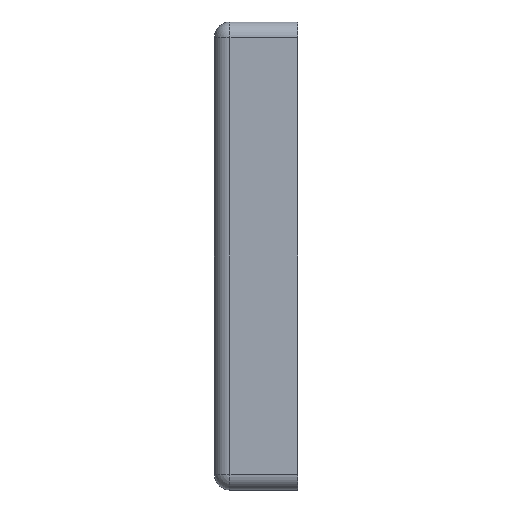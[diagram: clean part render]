
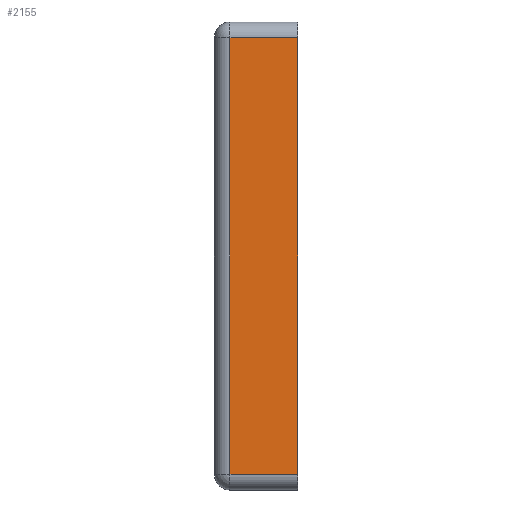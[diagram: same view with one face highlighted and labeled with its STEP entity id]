
A CAD part, left-side view. The second image highlights one B-rep face of the part: STEP entity #2155.
In plain terms, the highlighted planar face has unit normal (-1, 0, 0).
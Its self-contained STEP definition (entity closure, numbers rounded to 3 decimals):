
#139 = CARTESIAN_POINT ( 'NONE',  ( -45., 16., 42. ) ) ;
#208 = EDGE_CURVE ( 'NONE', #773, #4134, #2658, .T. ) ;
#318 = CARTESIAN_POINT ( 'NONE',  ( -45., 0., -42. ) ) ;
#395 = DIRECTION ( 'NONE',  ( 0., -1., 0. ) ) ;
#623 = EDGE_CURVE ( 'NONE', #773, #1284, #776, .T. ) ;
#642 = DIRECTION ( 'NONE',  ( 0., 0., -1. ) ) ;
#663 = ORIENTED_EDGE ( 'NONE', *, *, #623, .T. ) ;
#669 = LINE ( 'NONE', #318, #3001 ) ;
#769 = CARTESIAN_POINT ( 'NONE',  ( -45., 13., 42. ) ) ;
#773 = VERTEX_POINT ( 'NONE', #769 ) ;
#776 = LINE ( 'NONE', #1434, #2229 ) ;
#985 = EDGE_LOOP ( 'NONE', ( #3992, #663, #4276, #4320 ) ) ;
#1284 = VERTEX_POINT ( 'NONE', #1858 ) ;
#1377 = AXIS2_PLACEMENT_3D ( 'NONE', #1766, #3962, #642 ) ;
#1398 = FACE_OUTER_BOUND ( 'NONE', #985, .T. ) ;
#1434 = CARTESIAN_POINT ( 'NONE',  ( -45., 13., -42. ) ) ;
#1612 = DIRECTION ( 'NONE',  ( 0., -1., 0. ) ) ;
#1668 = CARTESIAN_POINT ( 'NONE',  ( -45., 0., 42. ) ) ;
#1766 = CARTESIAN_POINT ( 'NONE',  ( -45., 16., -42. ) ) ;
#1858 = CARTESIAN_POINT ( 'NONE',  ( -45., 13., -42. ) ) ;
#1893 = LINE ( 'NONE', #3719, #4244 ) ;
#2155 = ADVANCED_FACE ( 'NONE', ( #1398 ), #2455, .F. ) ;
#2229 = VECTOR ( 'NONE', #2902, 1000. ) ;
#2266 = VERTEX_POINT ( 'NONE', #4464 ) ;
#2420 = EDGE_CURVE ( 'NONE', #2266, #4134, #669, .T. ) ;
#2455 = PLANE ( 'NONE',  #1377 ) ;
#2571 = VECTOR ( 'NONE', #1612, 1000. ) ;
#2658 = LINE ( 'NONE', #139, #2571 ) ;
#2902 = DIRECTION ( 'NONE',  ( 0., 0., -1. ) ) ;
#3001 = VECTOR ( 'NONE', #3668, 1000. ) ;
#3668 = DIRECTION ( 'NONE',  ( 0., 0., 1. ) ) ;
#3719 = CARTESIAN_POINT ( 'NONE',  ( -45., 16., -42. ) ) ;
#3962 = DIRECTION ( 'NONE',  ( 1., 0., 0. ) ) ;
#3992 = ORIENTED_EDGE ( 'NONE', *, *, #208, .F. ) ;
#4134 = VERTEX_POINT ( 'NONE', #1668 ) ;
#4244 = VECTOR ( 'NONE', #395, 1000. ) ;
#4276 = ORIENTED_EDGE ( 'NONE', *, *, #4690, .T. ) ;
#4320 = ORIENTED_EDGE ( 'NONE', *, *, #2420, .T. ) ;
#4464 = CARTESIAN_POINT ( 'NONE',  ( -45., 0., -42. ) ) ;
#4690 = EDGE_CURVE ( 'NONE', #1284, #2266, #1893, .T. ) ;
